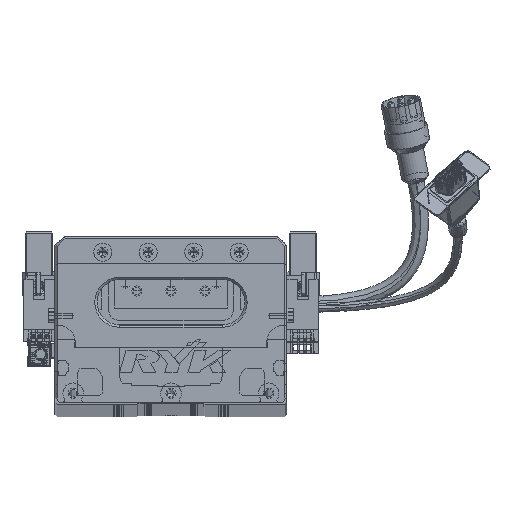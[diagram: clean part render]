
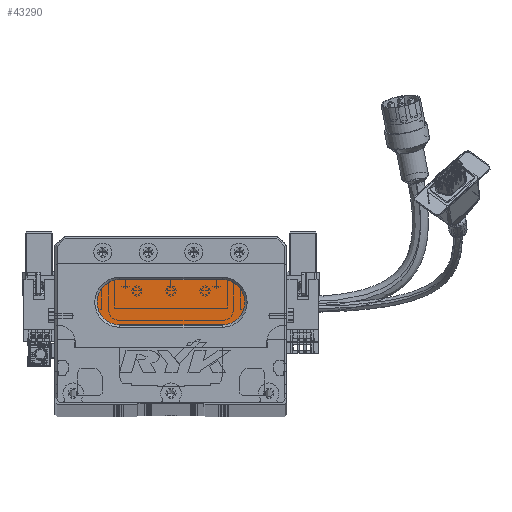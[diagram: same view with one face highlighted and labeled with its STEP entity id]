
A CAD part, top view. The second image highlights one B-rep face of the part: STEP entity #43290.
In plain terms, the highlighted planar face has unit normal (0, 0, 1) as drawn and (0, 0, -1) by its records, which use the part's own axes.
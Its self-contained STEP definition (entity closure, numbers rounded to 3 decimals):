
#1671 = ORIENTED_EDGE ( 'NONE', *, *, #41140, .T. ) ;
#3463 = EDGE_CURVE ( 'NONE', #41785, #85239, #43358, .T. ) ;
#4482 = CARTESIAN_POINT ( 'NONE',  ( 28.5, 34., 13. ) ) ;
#6427 = CARTESIAN_POINT ( 'NONE',  ( 73.5, 44., 13. ) ) ;
#6746 = LINE ( 'NONE', #47001, #43645 ) ;
#10763 = DIRECTION ( 'NONE',  ( -1., 0., 0. ) ) ;
#12347 = PLANE ( 'NONE',  #35125 ) ;
#15445 = CIRCLE ( 'NONE', #89015, 10. ) ;
#16078 = VERTEX_POINT ( 'NONE', #34363 ) ;
#17314 = CIRCLE ( 'NONE', #72803, 10. ) ;
#19979 = DIRECTION ( 'NONE',  ( -1., 0., 0. ) ) ;
#29254 = DIRECTION ( 'NONE',  ( -1., 0., 0. ) ) ;
#34038 = CARTESIAN_POINT ( 'NONE',  ( 73.5, 34., 13. ) ) ;
#34363 = CARTESIAN_POINT ( 'NONE',  ( 18.5, 44., 13. ) ) ;
#34413 = EDGE_CURVE ( 'NONE', #70735, #41785, #76995, .T. ) ;
#35125 = AXIS2_PLACEMENT_3D ( 'NONE', #6427, #62357, #56378 ) ;
#36355 = ORIENTED_EDGE ( 'NONE', *, *, #72376, .T. ) ;
#38847 = ORIENTED_EDGE ( 'NONE', *, *, #34413, .T. ) ;
#41140 = EDGE_CURVE ( 'NONE', #16078, #59853, #17314, .T. ) ;
#41785 = VERTEX_POINT ( 'NONE', #53163 ) ;
#43290 = ADVANCED_FACE ( 'NONE', ( #74028 ), #12347, .T. ) ;
#43358 = LINE ( 'NONE', #34038, #53418 ) ;
#43645 = VECTOR ( 'NONE', #62308, 1000. ) ;
#46385 = CARTESIAN_POINT ( 'NONE',  ( 28.5, 44., 13. ) ) ;
#47001 = CARTESIAN_POINT ( 'NONE',  ( 73.5, 54., 13. ) ) ;
#52954 = DIRECTION ( 'NONE',  ( 0., 0., -1. ) ) ;
#53163 = CARTESIAN_POINT ( 'NONE',  ( 73.5, 34., 13. ) ) ;
#53418 = VECTOR ( 'NONE', #19979, 1000. ) ;
#56378 = DIRECTION ( 'NONE',  ( -1., 0., 0. ) ) ;
#58447 = ORIENTED_EDGE ( 'NONE', *, *, #3463, .T. ) ;
#59853 = VERTEX_POINT ( 'NONE', #92072 ) ;
#62308 = DIRECTION ( 'NONE',  ( 1., 0., 0. ) ) ;
#62357 = DIRECTION ( 'NONE',  ( 0., 0., -1. ) ) ;
#65181 = DIRECTION ( 'NONE',  ( 0., 0., -1. ) ) ;
#66296 = CARTESIAN_POINT ( 'NONE',  ( 73.5, 54., 13. ) ) ;
#68218 = EDGE_LOOP ( 'NONE', ( #38847, #58447, #36355, #1671, #70045 ) ) ;
#70045 = ORIENTED_EDGE ( 'NONE', *, *, #70236, .T. ) ;
#70236 = EDGE_CURVE ( 'NONE', #59853, #70735, #6746, .T. ) ;
#70377 = AXIS2_PLACEMENT_3D ( 'NONE', #86075, #86682, #72010 ) ;
#70735 = VERTEX_POINT ( 'NONE', #66296 ) ;
#72010 = DIRECTION ( 'NONE',  ( -1., 0., 0. ) ) ;
#72376 = EDGE_CURVE ( 'NONE', #85239, #16078, #15445, .T. ) ;
#72803 = AXIS2_PLACEMENT_3D ( 'NONE', #46385, #52954, #10763 ) ;
#74028 = FACE_OUTER_BOUND ( 'NONE', #68218, .T. ) ;
#76995 = CIRCLE ( 'NONE', #70377, 10. ) ;
#85239 = VERTEX_POINT ( 'NONE', #4482 ) ;
#86075 = CARTESIAN_POINT ( 'NONE',  ( 73.5, 44., 13. ) ) ;
#86682 = DIRECTION ( 'NONE',  ( 0., 0., -1. ) ) ;
#89015 = AXIS2_PLACEMENT_3D ( 'NONE', #92672, #65181, #29254 ) ;
#92072 = CARTESIAN_POINT ( 'NONE',  ( 28.5, 54., 13. ) ) ;
#92672 = CARTESIAN_POINT ( 'NONE',  ( 28.5, 44., 13. ) ) ;
